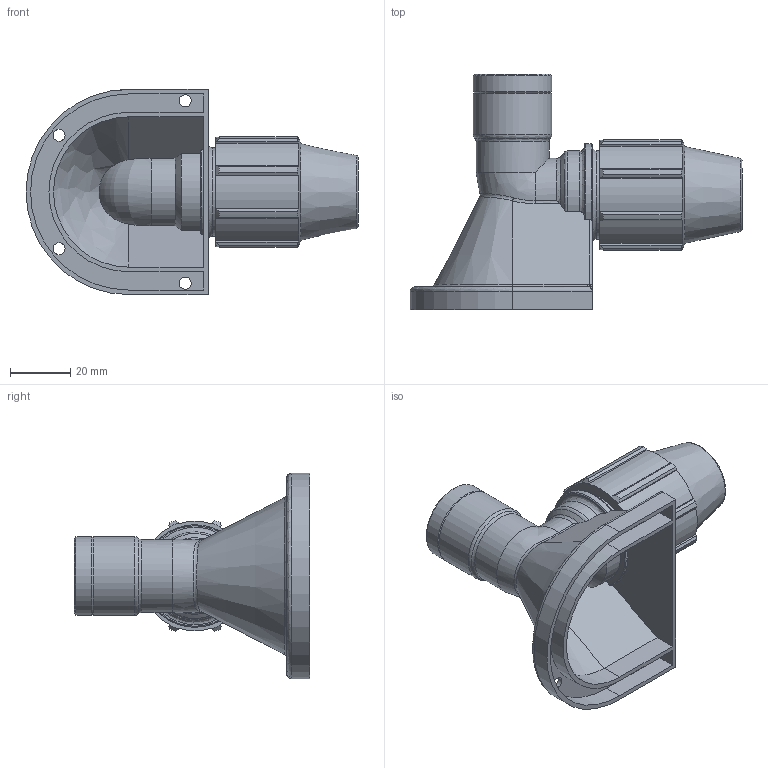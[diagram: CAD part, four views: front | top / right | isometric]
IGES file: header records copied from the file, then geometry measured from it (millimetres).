
Global section: file name: 077500016005__0775060160050A.ipt; native system: Autodesk Inventor 2015; preprocessor: unknown; author: KIM; date: 20170608.042252; units: millimetre
Bounding box: 110 x 78 x 68 mm (x, y, z)
Volume: 64130.8 mm3; surface area: 33490.7 mm2
Topology: 1 solids, 1 shells, 153 faces, 420 edges, 271 vertices
Faces by surface type: plane 64, cylinder 34, revolution 31, cone 15, bspline 9
Full cylindrical faces by diameter (mm): 24.22 x1, 26.083 x2, 29.25 x1
